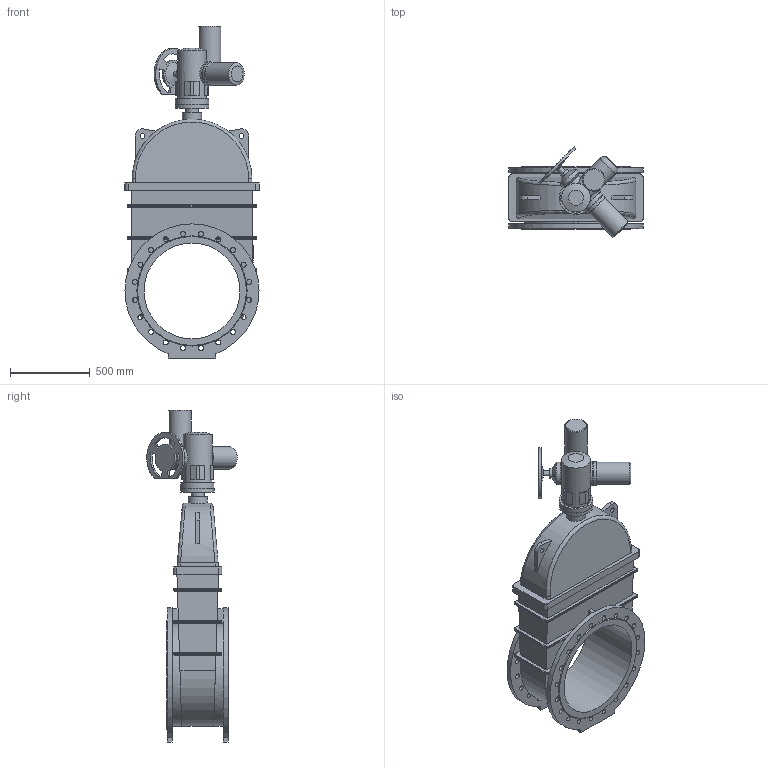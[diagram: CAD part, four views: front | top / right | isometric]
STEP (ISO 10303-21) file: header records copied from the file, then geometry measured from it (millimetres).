
FILE_DESCRIPTION(('STEP AP203'), '1');
FILE_NAME('青溻桄赅 47GVA.Z DN600 PN10+MT903.A45', '', ('UNSPECIFIED'), ('UNSPECIFIED'), 'ASCON STEP Converter 1.6', 'ASCON Math Kernel', '');
FILE_SCHEMA(('CONFIG_CONTROL_DESIGN'));
Length unit declared in the file: millimetre
Bounding box: 840 x 565.84 x 2079 mm (x, y, z)
Volume: 206771369 mm3; surface area: 5572327.4 mm2
Topology: 2 solids, 3 shells, 357 faces, 892 edges, 569 vertices
Faces by surface type: cylinder 161, plane 154, bspline 26, cone 15, torus 1
Full cylindrical faces by diameter (mm): 14 x4, 17 x4, 17.294 x4, 22 x4, 30 x2, 31 x40, 32 x1, 40 x1, 60 x1, 80 x1, 100 x1, 120 x1, 130 x2, 140 x4, 147 x1, 151 x1, 180 x1, 210 x2, 600 x1
Entity records: 16986 total; most frequent: CARTESIAN_POINT 5863, DIRECTION 1660, ORIENTED_EDGE 1594, EDGE_CURVE 797, AXIS2_PLACEMENT_3D 643, EDGE_LOOP 576, VERTEX_POINT 565, FACE_BOUND 410
